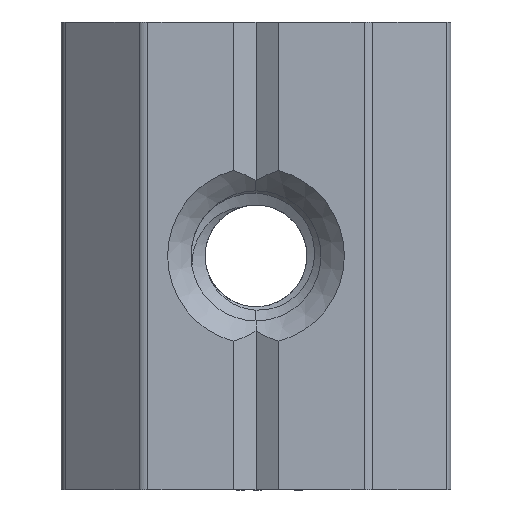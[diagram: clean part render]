
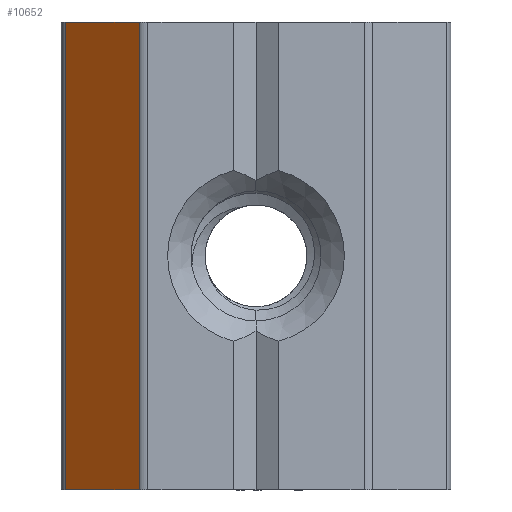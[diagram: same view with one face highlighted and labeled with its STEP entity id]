
A CAD part, front view. The second image highlights one B-rep face of the part: STEP entity #10652.
In plain terms, the highlighted planar face has unit normal (-0.664, -0.747, 0).
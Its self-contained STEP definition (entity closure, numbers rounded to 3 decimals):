
#340 = CARTESIAN_POINT ( 'NONE',  ( -7.332, -0.699, 9. ) ) ;
#684 = CARTESIAN_POINT ( 'NONE',  ( -4.492, -3.224, -9. ) ) ;
#961 = DIRECTION ( 'NONE',  ( 0.664, 0.747, 0. ) ) ;
#1082 = LINE ( 'NONE', #4541, #11100 ) ;
#1162 = VECTOR ( 'NONE', #5886, 1000. ) ;
#1632 = CARTESIAN_POINT ( 'NONE',  ( -7.5, -0.55, 9. ) ) ;
#2763 = ORIENTED_EDGE ( 'NONE', *, *, #2991, .F. ) ;
#2991 = EDGE_CURVE ( 'NONE', #10685, #4207, #3993, .T. ) ;
#3558 = CARTESIAN_POINT ( 'NONE',  ( -7.332, -0.699, 9. ) ) ;
#3608 = PLANE ( 'NONE',  #6615 ) ;
#3939 = DIRECTION ( 'NONE',  ( 0., 0., 1. ) ) ;
#3993 = LINE ( 'NONE', #8547, #1162 ) ;
#4016 = EDGE_LOOP ( 'NONE', ( #4184, #8277, #2763, #4267 ) ) ;
#4184 = ORIENTED_EDGE ( 'NONE', *, *, #9282, .T. ) ;
#4207 = VERTEX_POINT ( 'NONE', #5181 ) ;
#4212 = VECTOR ( 'NONE', #3939, 1000. ) ;
#4267 = ORIENTED_EDGE ( 'NONE', *, *, #10581, .T. ) ;
#4416 = DIRECTION ( 'NONE',  ( 0., 0., -1. ) ) ;
#4541 = CARTESIAN_POINT ( 'NONE',  ( -7.5, -0.55, -9. ) ) ;
#4970 = VECTOR ( 'NONE', #4416, 1000. ) ;
#5020 = CARTESIAN_POINT ( 'NONE',  ( -7.332, -0.699, -9. ) ) ;
#5181 = CARTESIAN_POINT ( 'NONE',  ( -4.492, -3.224, 9. ) ) ;
#5310 = FACE_OUTER_BOUND ( 'NONE', #4016, .T. ) ;
#5770 = EDGE_CURVE ( 'NONE', #7445, #4207, #11021, .T. ) ;
#5886 = DIRECTION ( 'NONE',  ( 0.747, -0.664, 0. ) ) ;
#6070 = DIRECTION ( 'NONE',  ( -0.747, 0.664, 0. ) ) ;
#6615 = AXIS2_PLACEMENT_3D ( 'NONE', #1632, #961, #6070 ) ;
#7419 = VERTEX_POINT ( 'NONE', #5020 ) ;
#7445 = VERTEX_POINT ( 'NONE', #684 ) ;
#7758 = LINE ( 'NONE', #3558, #4970 ) ;
#8003 = DIRECTION ( 'NONE',  ( 0.747, -0.664, 0. ) ) ;
#8277 = ORIENTED_EDGE ( 'NONE', *, *, #5770, .T. ) ;
#8547 = CARTESIAN_POINT ( 'NONE',  ( -7.5, -0.55, 9. ) ) ;
#9282 = EDGE_CURVE ( 'NONE', #7419, #7445, #1082, .T. ) ;
#10581 = EDGE_CURVE ( 'NONE', #10685, #7419, #7758, .T. ) ;
#10652 = ADVANCED_FACE ( 'NONE', ( #5310 ), #3608, .F. ) ;
#10685 = VERTEX_POINT ( 'NONE', #340 ) ;
#10907 = CARTESIAN_POINT ( 'NONE',  ( -4.492, -3.224, 9. ) ) ;
#11021 = LINE ( 'NONE', #10907, #4212 ) ;
#11100 = VECTOR ( 'NONE', #8003, 1000. ) ;
